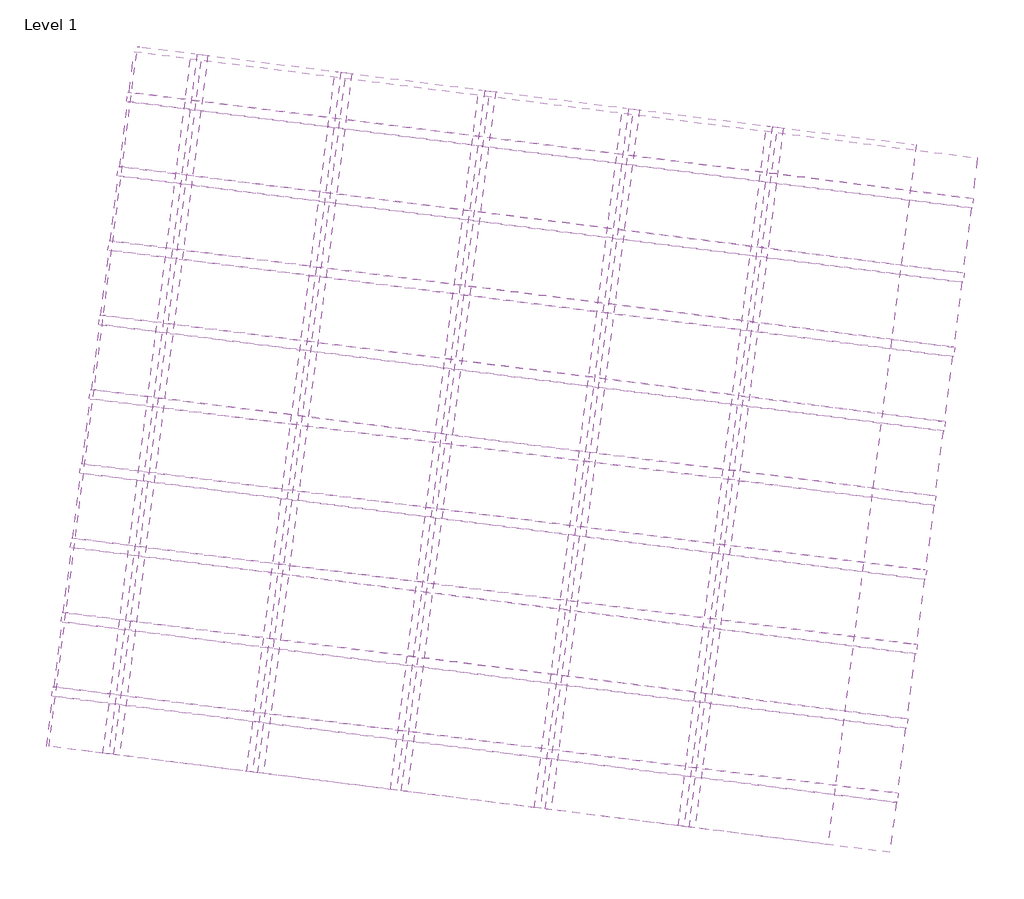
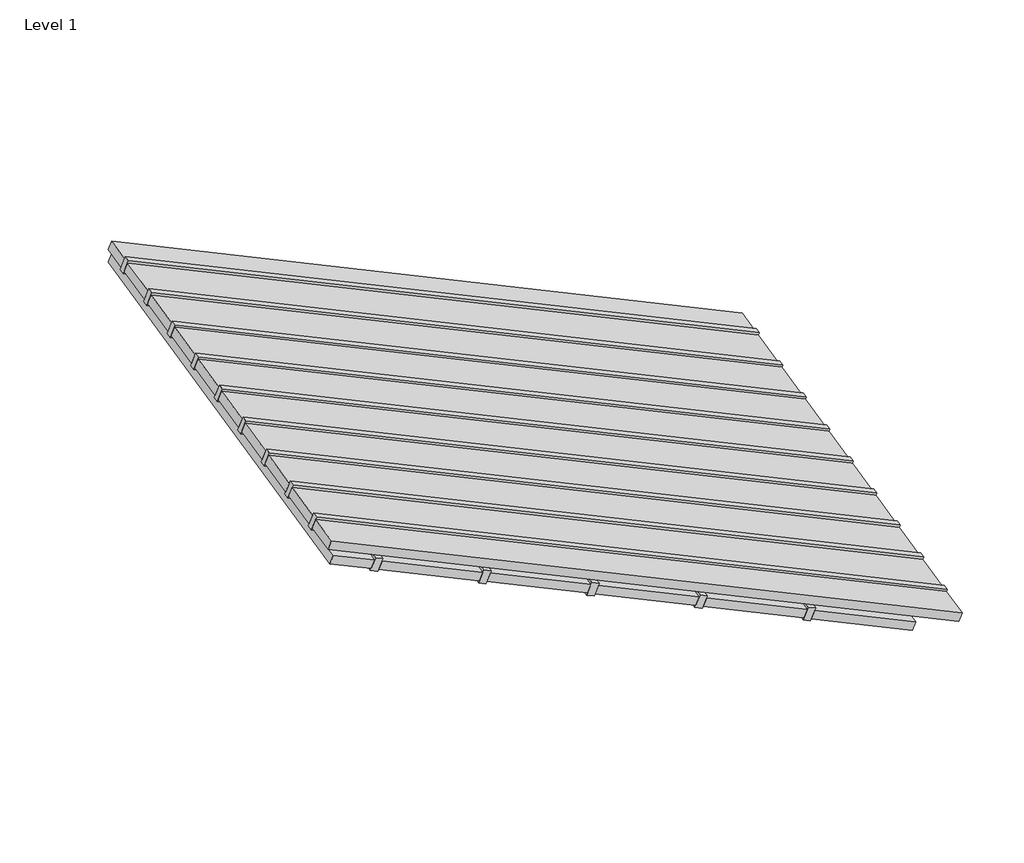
# One storey: 16 plates, 14 members.
"""IFC4 building model written with IfcOpenShell, lengths in millimetres."""

from ifc_helpers import new_model, si_unit, origin, place, context, project, spatial, transform, mapped, element, save
from components import montante_retangular_dfbe916e, montante_retangular_caibro_c91b11ce, painel_do_sistema_vazio_vazio_720ce80a, painel_do_sistema_vazio_vazio_67ec3ebd, painel_do_sistema_vazio_vazio_0112bb93, painel_do_sistema_vazio_vazio_8b69d46a, painel_do_sistema_vazio_vazio_cc1d985d

model = new_model("IFC4")

# Units and contexts
model_context = context("Model", 3, world=origin())
ifc_project = project(units=[si_unit("LENGTHUNIT", "METRE", prefix="MILLI")], contexts=[model_context])

# Site, building, storey
site = spatial("IfcSite", under=ifc_project)
building = spatial("IfcBuilding", under=site)
storey = spatial("IfcBuildingStorey", under=building, Name="Level 1", Elevation=0.0)

# Members
placement = place(None, origin())
montante_retangular_shape = montante_retangular_dfbe916e(model_context)
element("IfcMember", 1, ObjectType="Montante retangular : terça", at=placement, inside=storey, context=model_context, shape_type="MappedRepresentation", body=[
    mapped(montante_retangular_shape, transform((45785.3385441, -13296.6699052, 3160.2057244), x_axis=(-0.9211792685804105, 0.1161796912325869, 0.3713906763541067), y_axis=(-0.3684717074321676, 0.046471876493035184, -0.9284766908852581), z_axis=(-0.12512935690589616, -0.9921404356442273, 0.0))),
])
element("IfcMember", 2, ObjectType="Montante retangular : terça", at=placement, inside=storey, context=model_context, shape_type="MappedRepresentation", body=[
    mapped(montante_retangular_shape, transform((44633.8644583, -13151.4452912, 3624.4440698), x_axis=(-0.9211792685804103, 0.1161796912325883, 0.3713906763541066), y_axis=(-0.36847170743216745, 0.04647187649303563, -0.9284766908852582), z_axis=(-0.1251293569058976, -0.9921404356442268, 0.0))),
])
element("IfcMember", 3, ObjectType="Montante retangular : terça", at=placement, inside=storey, context=model_context, shape_type="MappedRepresentation", body=[
    mapped(montante_retangular_shape, transform((43482.3903726, -13006.2206771, 4088.6824153), x_axis=(-0.9211792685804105, 0.1161796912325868, 0.3713906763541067), y_axis=(-0.3684717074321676, 0.046471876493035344, -0.9284766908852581), z_axis=(-0.12512935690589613, -0.9921404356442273, 0.0))),
])
element("IfcMember", 4, ObjectType="Montante retangular : terça", at=placement, inside=storey, context=model_context, shape_type="MappedRepresentation", body=[
    mapped(montante_retangular_shape, transform((42330.9162869, -12860.9960631, 4552.9207607), x_axis=(-0.9211792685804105, 0.11617969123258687, 0.3713906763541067), y_axis=(-0.3684717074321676, 0.04647187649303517, -0.9284766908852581), z_axis=(-0.12512935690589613, -0.9921404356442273, 0.0))),
])
element("IfcMember", 5, ObjectType="Montante retangular : terça", at=placement, inside=storey, context=model_context, shape_type="MappedRepresentation", body=[
    mapped(montante_retangular_shape, transform((41179.4422012, -12715.7714491, 5017.1591061), x_axis=(-0.9211792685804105, 0.11617969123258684, 0.3713906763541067), y_axis=(-0.3684717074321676, 0.046471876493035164, -0.9284766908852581), z_axis=(-0.1251293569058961, -0.9921404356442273, 0.0))),
])
montante_retangular_caibro_shape = montante_retangular_caibro_c91b11ce(model_context)
element("IfcMember", 6, ObjectType="Montante retangular : caibro", at=placement, inside=storey, context=model_context, shape_type="MappedRepresentation", body=[
    mapped(montante_retangular_caibro_shape, transform((40760.5492822, -12255.9919812, 5376.7308253), x_axis=(0.12512935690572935, 0.9921404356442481, 0.0), y_axis=(-0.3684717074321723, 0.0464718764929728, -0.9284766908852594), z_axis=(-0.9211792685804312, 0.1161796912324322, 0.3713906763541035))),
])
element("IfcMember", 7, ObjectType="Montante retangular : caibro", at=placement, inside=storey, context=model_context, shape_type="MappedRepresentation", body=[
    mapped(montante_retangular_caibro_shape, transform((40835.6268964, -11660.7077198, 5376.7308253), x_axis=(0.12512935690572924, 0.9921404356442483, 0.0), y_axis=(-0.368471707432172, 0.046471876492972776, -0.9284766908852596), z_axis=(-0.9211792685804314, 0.11617969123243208, 0.3713906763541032))),
])
element("IfcMember", 8, ObjectType="Montante retangular : caibro", at=placement, inside=storey, context=model_context, shape_type="MappedRepresentation", body=[
    mapped(montante_retangular_caibro_shape, transform((40910.7045105, -11065.4234584, 5376.7308253), x_axis=(0.1251293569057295, 0.9921404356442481, 0.0), y_axis=(-0.36847170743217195, 0.04647187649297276, -0.9284766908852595), z_axis=(-0.9211792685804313, 0.11617969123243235, 0.3713906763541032))),
])
element("IfcMember", 9, ObjectType="Montante retangular : caibro", at=placement, inside=storey, context=model_context, shape_type="MappedRepresentation", body=[
    mapped(montante_retangular_caibro_shape, transform((40985.7821246, -10470.139197, 5376.7308253), x_axis=(0.1251293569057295, 0.9921404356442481, 0.0), y_axis=(-0.368471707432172, 0.04647187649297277, -0.9284766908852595), z_axis=(-0.9211792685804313, 0.11617969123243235, 0.3713906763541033))),
])
element("IfcMember", 10, ObjectType="Montante retangular : caibro", at=placement, inside=storey, context=model_context, shape_type="MappedRepresentation", body=[
    mapped(montante_retangular_caibro_shape, transform((41060.8597388, -9874.8549356, 5376.7308253), x_axis=(0.12512935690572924, 0.9921404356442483, 0.0), y_axis=(-0.36847170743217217, 0.04647187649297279, -0.9284766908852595), z_axis=(-0.9211792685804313, 0.11617969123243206, 0.3713906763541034))),
])
element("IfcMember", 11, ObjectType="Montante retangular : caibro", at=placement, inside=storey, context=model_context, shape_type="MappedRepresentation", body=[
    mapped(montante_retangular_caibro_shape, transform((41135.9373529, -9279.5706742, 5376.7308253), x_axis=(0.12512935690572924, 0.9921404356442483, 0.0), y_axis=(-0.3684717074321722, 0.0464718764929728, -0.9284766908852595), z_axis=(-0.9211792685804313, 0.11617969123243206, 0.37139067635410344))),
])
element("IfcMember", 12, ObjectType="Montante retangular : caibro", at=placement, inside=storey, context=model_context, shape_type="MappedRepresentation", body=[
    mapped(montante_retangular_caibro_shape, transform((41211.0149671, -8684.2864129, 5376.7308253), x_axis=(0.1251293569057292, 0.9921404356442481, 0.0), y_axis=(-0.3684717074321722, 0.04647187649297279, -0.9284766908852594), z_axis=(-0.9211792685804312, 0.11617969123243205, 0.37139067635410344))),
])
element("IfcMember", 13, ObjectType="Montante retangular : caibro", at=placement, inside=storey, context=model_context, shape_type="MappedRepresentation", body=[
    mapped(montante_retangular_caibro_shape, transform((41286.0925812, -8089.0021515, 5376.7308253), x_axis=(0.12512935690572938, 0.9921404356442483, 0.0), y_axis=(-0.36847170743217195, 0.04647187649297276, -0.9284766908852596), z_axis=(-0.9211792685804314, 0.11617969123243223, 0.37139067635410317))),
])
element("IfcMember", 14, ObjectType="Montante retangular : caibro", at=placement, inside=storey, context=model_context, shape_type="MappedRepresentation", body=[
    mapped(montante_retangular_caibro_shape, transform((41361.1701954, -7493.7178901, 5376.7308253), x_axis=(0.12512935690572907, 0.9921404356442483, 0.0), y_axis=(-0.36847170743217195, 0.046471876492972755, -0.9284766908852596), z_axis=(-0.9211792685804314, 0.11617969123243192, 0.37139067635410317))),
])

# Plates
painel_do_sistema_vazio_vazio_shape = painel_do_sistema_vazio_vazio_720ce80a(model_context)
element("IfcPlate", 15, ObjectType="Painel do sistema vazio : Vazio", at=placement, inside=storey, context=model_context, shape_type="MappedRepresentation", body=[
    mapped(painel_do_sistema_vazio_vazio_shape, transform((47281.0912704, -10637.9359917, 2699.6812857), x_axis=(0.12512935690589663, 0.992140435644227, 0.0), y_axis=(-0.36847170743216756, 0.04647187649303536, -0.9284766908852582), z_axis=(-0.9211792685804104, 0.11617969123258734, 0.37139067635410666))),
])
element("IfcPlate", 16, ObjectType="Painel do sistema vazio : Vazio", at=placement, inside=storey, context=model_context, shape_type="MappedRepresentation", body=[
    mapped(painel_do_sistema_vazio_vazio_shape, transform((46129.6171846, -10492.7113776, 3163.9196311), x_axis=(0.12512935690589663, 0.992140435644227, 0.0), y_axis=(-0.36847170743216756, 0.04647187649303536, -0.9284766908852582), z_axis=(-0.9211792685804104, 0.11617969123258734, 0.37139067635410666))),
])
element("IfcPlate", 17, ObjectType="Painel do sistema vazio : Vazio", at=placement, inside=storey, context=model_context, shape_type="MappedRepresentation", body=[
    mapped(painel_do_sistema_vazio_vazio_shape, transform((44978.1430989, -10347.4867636, 3628.1579766), x_axis=(0.12512935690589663, 0.992140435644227, 0.0), y_axis=(-0.36847170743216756, 0.04647187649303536, -0.9284766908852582), z_axis=(-0.9211792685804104, 0.11617969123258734, 0.37139067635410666))),
])
element("IfcPlate", 18, ObjectType="Painel do sistema vazio : Vazio", at=placement, inside=storey, context=model_context, shape_type="MappedRepresentation", body=[
    mapped(painel_do_sistema_vazio_vazio_shape, transform((43826.6690132, -10202.2621495, 4092.396322), x_axis=(0.12512935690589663, 0.992140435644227, 0.0), y_axis=(-0.36847170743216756, 0.04647187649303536, -0.9284766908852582), z_axis=(-0.9211792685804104, 0.11617969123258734, 0.37139067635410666))),
])
element("IfcPlate", 19, ObjectType="Painel do sistema vazio : Vazio", at=placement, inside=storey, context=model_context, shape_type="MappedRepresentation", body=[
    mapped(painel_do_sistema_vazio_vazio_shape, transform((42675.1949275, -10057.0375355, 4556.6346675), x_axis=(0.12512935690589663, 0.992140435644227, 0.0), y_axis=(-0.36847170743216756, 0.04647187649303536, -0.9284766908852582), z_axis=(-0.9211792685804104, 0.11617969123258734, 0.37139067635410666))),
])
painel_do_sistema_vazio_vazio_2_shape = painel_do_sistema_vazio_vazio_67ec3ebd(model_context)
element("IfcPlate", 20, ObjectType="Painel do sistema vazio : Vazio", at=placement, inside=storey, context=model_context, shape_type="MappedRepresentation", body=[
    mapped(painel_do_sistema_vazio_vazio_2_shape, transform((41523.7208417, -9911.8129215, 5020.8730129), x_axis=(0.12512935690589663, 0.992140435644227, 0.0), y_axis=(-0.36847170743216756, 0.04647187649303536, -0.9284766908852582), z_axis=(-0.9211792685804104, 0.11617969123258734, 0.37139067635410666))),
])
painel_do_sistema_vazio_vazio_3_shape = painel_do_sistema_vazio_vazio_0112bb93(model_context)
element("IfcPlate", 21, ObjectType="Painel do sistema vazio : Vazio", at=placement, inside=storey, context=model_context, shape_type="MappedRepresentation", body=[
    mapped(painel_do_sistema_vazio_vazio_3_shape, transform((47448.9315438, -13303.0090504, 2670.0), x_axis=(0.12512935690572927, 0.9921404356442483, 0.0), y_axis=(-0.3684717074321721, 0.04647187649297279, -0.9284766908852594), z_axis=(-0.9211792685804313, 0.11617969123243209, 0.3713906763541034))),
])
painel_do_sistema_vazio_vazio_4_shape = painel_do_sistema_vazio_vazio_8b69d46a(model_context)
element("IfcPlate", 22, ObjectType="Painel do sistema vazio : Vazio", at=placement, inside=storey, context=model_context, shape_type="MappedRepresentation", body=[
    mapped(painel_do_sistema_vazio_vazio_4_shape, transform((47516.4231907, -12767.8733029, 2670.0), x_axis=(0.12512935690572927, 0.9921404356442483, 0.0), y_axis=(-0.3684717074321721, 0.04647187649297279, -0.9284766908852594), z_axis=(-0.9211792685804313, 0.11617969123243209, 0.3713906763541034))),
])
element("IfcPlate", 23, ObjectType="Painel do sistema vazio : Vazio", at=placement, inside=storey, context=model_context, shape_type="MappedRepresentation", body=[
    mapped(painel_do_sistema_vazio_vazio_4_shape, transform((47591.5008049, -12172.5890415, 2670.0), x_axis=(0.12512935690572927, 0.9921404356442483, 0.0), y_axis=(-0.3684717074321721, 0.04647187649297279, -0.9284766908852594), z_axis=(-0.9211792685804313, 0.11617969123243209, 0.3713906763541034))),
])
element("IfcPlate", 24, ObjectType="Painel do sistema vazio : Vazio", at=placement, inside=storey, context=model_context, shape_type="MappedRepresentation", body=[
    mapped(painel_do_sistema_vazio_vazio_4_shape, transform((47666.578419, -11577.3047801, 2670.0), x_axis=(0.12512935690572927, 0.9921404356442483, 0.0), y_axis=(-0.3684717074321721, 0.04647187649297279, -0.9284766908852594), z_axis=(-0.9211792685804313, 0.11617969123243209, 0.3713906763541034))),
])
element("IfcPlate", 25, ObjectType="Painel do sistema vazio : Vazio", at=placement, inside=storey, context=model_context, shape_type="MappedRepresentation", body=[
    mapped(painel_do_sistema_vazio_vazio_4_shape, transform((47741.6560332, -10982.0205187, 2670.0), x_axis=(0.12512935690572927, 0.9921404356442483, 0.0), y_axis=(-0.3684717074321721, 0.04647187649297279, -0.9284766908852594), z_axis=(-0.9211792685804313, 0.11617969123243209, 0.3713906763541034))),
])
element("IfcPlate", 26, ObjectType="Painel do sistema vazio : Vazio", at=placement, inside=storey, context=model_context, shape_type="MappedRepresentation", body=[
    mapped(painel_do_sistema_vazio_vazio_4_shape, transform((47816.7336473, -10386.7362573, 2670.0), x_axis=(0.12512935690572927, 0.9921404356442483, 0.0), y_axis=(-0.3684717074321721, 0.04647187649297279, -0.9284766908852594), z_axis=(-0.9211792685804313, 0.11617969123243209, 0.3713906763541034))),
])
element("IfcPlate", 27, ObjectType="Painel do sistema vazio : Vazio", at=placement, inside=storey, context=model_context, shape_type="MappedRepresentation", body=[
    mapped(painel_do_sistema_vazio_vazio_4_shape, transform((47891.8112614, -9791.4519959, 2670.0), x_axis=(0.12512935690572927, 0.9921404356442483, 0.0), y_axis=(-0.3684717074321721, 0.04647187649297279, -0.9284766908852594), z_axis=(-0.9211792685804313, 0.11617969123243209, 0.3713906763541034))),
])
element("IfcPlate", 28, ObjectType="Painel do sistema vazio : Vazio", at=placement, inside=storey, context=model_context, shape_type="MappedRepresentation", body=[
    mapped(painel_do_sistema_vazio_vazio_4_shape, transform((47966.8888756, -9196.1677346, 2670.0), x_axis=(0.12512935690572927, 0.9921404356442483, 0.0), y_axis=(-0.3684717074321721, 0.04647187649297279, -0.9284766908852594), z_axis=(-0.9211792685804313, 0.11617969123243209, 0.3713906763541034))),
])
element("IfcPlate", 29, ObjectType="Painel do sistema vazio : Vazio", at=placement, inside=storey, context=model_context, shape_type="MappedRepresentation", body=[
    mapped(painel_do_sistema_vazio_vazio_4_shape, transform((48041.9664897, -8600.8834732, 2670.0), x_axis=(0.12512935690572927, 0.9921404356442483, 0.0), y_axis=(-0.3684717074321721, 0.04647187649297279, -0.9284766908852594), z_axis=(-0.9211792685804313, 0.11617969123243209, 0.3713906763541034))),
])
painel_do_sistema_vazio_vazio_5_shape = painel_do_sistema_vazio_vazio_cc1d985d(model_context)
element("IfcPlate", 30, ObjectType="Painel do sistema vazio : Vazio", at=placement, inside=storey, context=model_context, shape_type="MappedRepresentation", body=[
    mapped(painel_do_sistema_vazio_vazio_5_shape, transform((48104.7657857, -8102.952992, 2670.0), x_axis=(0.12512935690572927, 0.9921404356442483, 0.0), y_axis=(-0.3684717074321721, 0.04647187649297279, -0.9284766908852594), z_axis=(-0.9211792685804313, 0.11617969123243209, 0.3713906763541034))),
])

save(model, "model.ifc")
